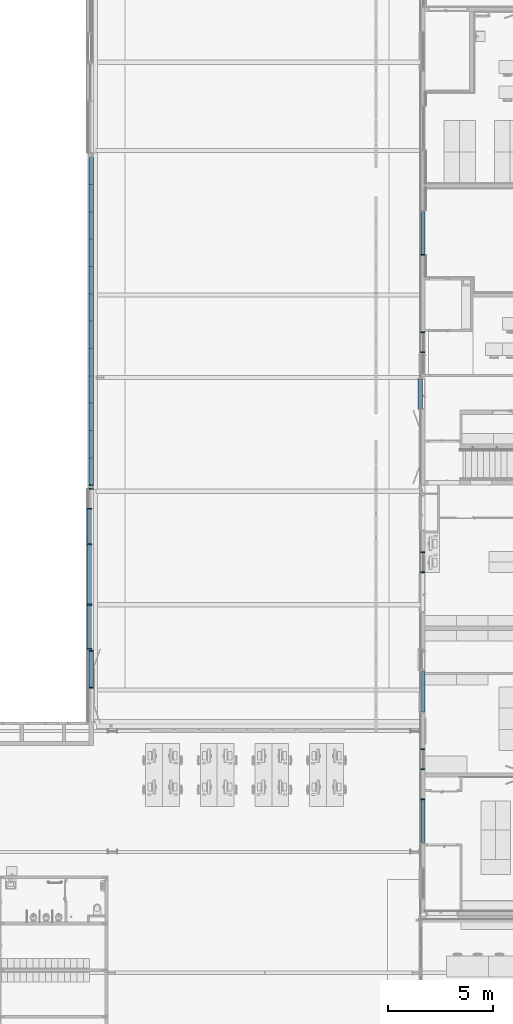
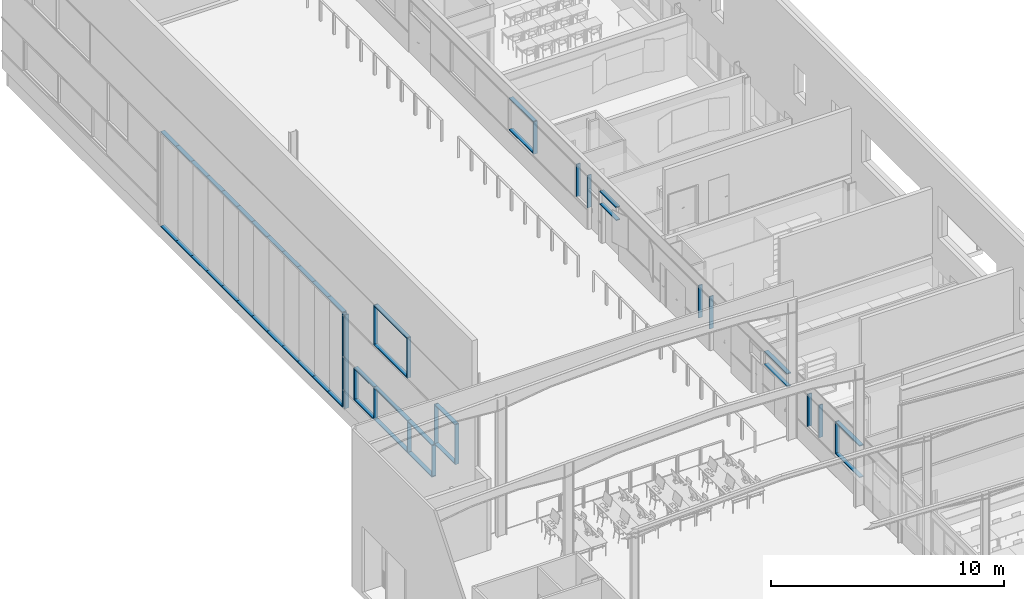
# One storey, part 13 of 137: 60 members, 11 elements without a shape of their own.
"""IFC2X3 building model written with IfcOpenShell, lengths in centimetres."""

from ifc_helpers import new_model, entity, si_unit, converted_unit, derived_unit, direction, frame, frame_2d, origin, origin_2d_with_axis, place, context, subcontext, project, spatial, rectangle, extrude, material, type_object, element, aggregate, save


model = new_model("IFC2X3")

# Units and contexts
model_context = context("Model", 3, precision=0.001, world=origin(), true_north=direction((6.12303176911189e-17, 1.0)))
body_context = subcontext(model_context, "Body", "Model", "MODEL_VIEW")
ifc_project = project(units=[si_unit("LENGTHUNIT", "METRE", prefix="CENTI"), si_unit("AREAUNIT", "SQUARE_METRE"), si_unit("VOLUMEUNIT", "CUBIC_METRE"), converted_unit("PLANEANGLEUNIT", "DEGREE", entity("IfcRatioMeasure", 0.0174532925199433), si_unit("PLANEANGLEUNIT", "RADIAN"), dimensions=[0, 0, 0, 0, 0, 0, 0]), si_unit("MASSUNIT", "GRAM", prefix="KILO"), si_unit("TIMEUNIT", "SECOND"), si_unit("FREQUENCYUNIT", "HERTZ"), si_unit("THERMODYNAMICTEMPERATUREUNIT", "DEGREE_CELSIUS"), derived_unit("THERMALTRANSMITTANCEUNIT", [(si_unit("MASSUNIT", "GRAM", prefix="KILO"), 1), (si_unit("THERMODYNAMICTEMPERATUREUNIT", "KELVIN"), -1), (si_unit("TIMEUNIT", "SECOND"), -3)]), derived_unit("VOLUMETRICFLOWRATEUNIT", [(si_unit("LENGTHUNIT", "METRE"), 3), (si_unit("TIMEUNIT", "SECOND"), -1)]), si_unit("ELECTRICCURRENTUNIT", "AMPERE"), si_unit("ELECTRICVOLTAGEUNIT", "VOLT"), si_unit("POWERUNIT", "WATT"), si_unit("FORCEUNIT", "NEWTON", prefix="KILO"), si_unit("ILLUMINANCEUNIT", "LUX"), si_unit("LUMINOUSFLUXUNIT", "LUMEN"), si_unit("LUMINOUSINTENSITYUNIT", "CANDELA"), derived_unit("USERDEFINED", [(si_unit("MASSUNIT", "GRAM", prefix="KILO"), -1), (si_unit("LENGTHUNIT", "METRE"), -2), (si_unit("TIMEUNIT", "SECOND"), 3), (si_unit("LUMINOUSFLUXUNIT", "LUMEN"), 1)]), derived_unit("LINEARVELOCITYUNIT", [(si_unit("LENGTHUNIT", "METRE"), 1), (si_unit("TIMEUNIT", "SECOND"), -1)]), si_unit("PRESSUREUNIT", "PASCAL"), derived_unit("USERDEFINED", [(si_unit("LENGTHUNIT", "METRE"), -2), (si_unit("MASSUNIT", "GRAM", prefix="KILO"), 1), (si_unit("TIMEUNIT", "SECOND"), -2)])], contexts=[model_context])

# Site, building, storey
site_placement = place(None, frame((8.62739174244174, -249.285249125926, 0.0)))
site = spatial("IfcSite", under=ifc_project, at=site_placement, Name="Default", CompositionType="ELEMENT")
building_placement = place(site_placement, origin())
building = spatial("IfcBuilding", under=site, at=building_placement, CompositionType="ELEMENT")
storey_placement = place(building_placement, origin())
storey = spatial("IfcBuildingStorey", under=building, at=storey_placement, Name="RDC", CompositionType="ELEMENT", Elevation=-8.82465566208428e-11)

# Curtain wall, members
curtain_wall_type = type_object("IfcCurtainWallType", Name="Mur-rideau:Simple panneau", PredefinedType="NOTDEFINED")
curtain_wall_1_placement = place(storey_placement, origin())
curtain_wall_1 = element("IfcCurtainWall", 1, at=curtain_wall_1_placement, inside=storey, type_object=curtain_wall_type, Name="Mur-rideau:Simple panneau", ObjectType="Mur-rideau:Simple panneau")
ifc_material = material(Name="Plastique, blanc opaque")
member_1_placement = place(curtain_wall_1_placement, origin())
member_1 = element("IfcMember", 2, at=member_1_placement, material=ifc_material, Name="Mur-rideau:Simple panneau", ObjectType="Mur-rideau:Simple panneau", context=body_context, shape_type="SweptSolid", body=[
    extrude(rectangle(XDim=20.0000000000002, YDim=4.99999999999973, at=frame_2d((0.0, 4.33209024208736e-13), x_axis=(1.0, 0.0))), frame((1466.9048277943, 4663.77522290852, 5.0), z_axis=(0.0, 0.0, 1.0), x_axis=(-1.0, 0.0, 0.0)), (0.0, 0.0, 1.0), 490.0),
])
member_2_placement = place(curtain_wall_1_placement, origin())
member_2 = element("IfcMember", 3, at=member_2_placement, material=ifc_material, Name="Mur-rideau:Simple panneau", ObjectType="Mur-rideau:Simple panneau", context=body_context, shape_type="SweptSolid", body=[
    extrude(rectangle(XDim=20.0000000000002, YDim=5.0000000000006, at=origin_2d_with_axis()), frame((1466.9048277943, 4681.27522290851, 5.0), z_axis=(0.0, 0.0, 1.0), x_axis=(-1.0, 0.0, 0.0)), (0.0, 0.0, 1.0), 490.0),
])
member_3_placement = place(curtain_wall_1_placement, origin())
member_3 = element("IfcMember", 4, at=member_3_placement, material=ifc_material, Name="Mur-rideau:Simple panneau", ObjectType="Mur-rideau:Simple panneau", context=body_context, shape_type="SweptSolid", body=[
    extrude(rectangle(XDim=5.0, YDim=19.9999999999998, at=origin_2d_with_axis()), frame((1466.9048277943, 6111.27522290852, 2.50000000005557), z_axis=(0.0, -1.0, 0.0), x_axis=(0.0, 0.0, -1.0)), (0.0, 0.0, 1.0), 130.0),
])
member_4_placement = place(curtain_wall_1_placement, origin())
member_4 = element("IfcMember", 5, at=member_4_placement, material=ifc_material, Name="Mur-rideau:Simple panneau", ObjectType="Mur-rideau:Simple panneau", context=body_context, shape_type="SweptSolid", body=[
    extrude(rectangle(XDim=5.0, YDim=20.0000000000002, at=origin_2d_with_axis()), frame((1466.9048277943, 5981.27522290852, 2.50000000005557), z_axis=(0.0, -1.0, 0.0), x_axis=(0.0, 0.0, -1.0)), (0.0, 0.0, 1.0), 130.0),
])
member_5_placement = place(curtain_wall_1_placement, origin())
member_5 = element("IfcMember", 6, at=member_5_placement, material=ifc_material, Name="Mur-rideau:Simple panneau", ObjectType="Mur-rideau:Simple panneau", context=body_context, shape_type="SweptSolid", body=[
    extrude(rectangle(XDim=5.0, YDim=19.9999999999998, at=origin_2d_with_axis()), frame((1466.9048277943, 5851.27522290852, 2.50000000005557), z_axis=(0.0, -1.0, 0.0), x_axis=(0.0, 0.0, -1.0)), (0.0, 0.0, 1.0), 130.0),
])
member_6_placement = place(curtain_wall_1_placement, origin())
member_6 = element("IfcMember", 7, at=member_6_placement, material=ifc_material, Name="Mur-rideau:Simple panneau", ObjectType="Mur-rideau:Simple panneau", context=body_context, shape_type="SweptSolid", body=[
    extrude(rectangle(XDim=5.0, YDim=20.0000000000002, at=origin_2d_with_axis()), frame((1466.9048277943, 5721.27522290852, 2.50000000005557), z_axis=(0.0, -1.0, 0.0), x_axis=(0.0, 0.0, -1.0)), (0.0, 0.0, 1.0), 130.0),
])
member_7_placement = place(curtain_wall_1_placement, origin())
member_7 = element("IfcMember", 8, at=member_7_placement, material=ifc_material, Name="Mur-rideau:Simple panneau", ObjectType="Mur-rideau:Simple panneau", context=body_context, shape_type="SweptSolid", body=[
    extrude(rectangle(XDim=5.0, YDim=19.9999999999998, at=frame_2d((0.0, -2.16715534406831e-13), x_axis=(1.0, 0.0))), frame((1466.9048277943, 5591.27522290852, 2.50000000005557), z_axis=(0.0, -1.0, 0.0), x_axis=(0.0, 0.0, -1.0)), (0.0, 0.0, 1.0), 130.0),
])
member_8_placement = place(curtain_wall_1_placement, origin())
member_8 = element("IfcMember", 9, at=member_8_placement, material=ifc_material, Name="Mur-rideau:Simple panneau", ObjectType="Mur-rideau:Simple panneau", context=body_context, shape_type="SweptSolid", body=[
    extrude(rectangle(XDim=5.0, YDim=20.0000000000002, at=frame_2d((0.0, 2.16715534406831e-13), x_axis=(1.0, 0.0))), frame((1466.9048277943, 5461.27522290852, 2.50000000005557), z_axis=(0.0, -1.0, 0.0), x_axis=(0.0, 0.0, -1.0)), (0.0, 0.0, 1.0), 130.0),
])
member_9_placement = place(curtain_wall_1_placement, origin())
member_9 = element("IfcMember", 10, at=member_9_placement, material=ifc_material, Name="Mur-rideau:Simple panneau", ObjectType="Mur-rideau:Simple panneau", context=body_context, shape_type="SweptSolid", body=[
    extrude(rectangle(XDim=5.0, YDim=19.9999999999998, at=origin_2d_with_axis()), frame((1466.9048277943, 5331.27522290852, 2.50000000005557), z_axis=(0.0, -1.0, 0.0), x_axis=(0.0, 0.0, -1.0)), (0.0, 0.0, 1.0), 130.0),
])
member_10_placement = place(curtain_wall_1_placement, origin())
member_10 = element("IfcMember", 11, at=member_10_placement, material=ifc_material, Name="Mur-rideau:Simple panneau", ObjectType="Mur-rideau:Simple panneau", context=body_context, shape_type="SweptSolid", body=[
    extrude(rectangle(XDim=5.0, YDim=20.0000000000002, at=origin_2d_with_axis()), frame((1466.9048277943, 5201.27522290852, 2.50000000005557), z_axis=(0.0, -1.0, 0.0), x_axis=(0.0, 0.0, -1.0)), (0.0, 0.0, 1.0), 130.0),
])
member_11_placement = place(curtain_wall_1_placement, origin())
member_11 = element("IfcMember", 12, at=member_11_placement, material=ifc_material, Name="Mur-rideau:Simple panneau", ObjectType="Mur-rideau:Simple panneau", context=body_context, shape_type="SweptSolid", body=[
    extrude(rectangle(XDim=5.0, YDim=19.9999999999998, at=origin_2d_with_axis()), frame((1466.9048277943, 5071.27522290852, 2.50000000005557), z_axis=(0.0, -1.0, 0.0), x_axis=(0.0, 0.0, -1.0)), (0.0, 0.0, 1.0), 130.0),
])
member_12_placement = place(curtain_wall_1_placement, origin())
member_12 = element("IfcMember", 13, at=member_12_placement, material=ifc_material, Name="Mur-rideau:Simple panneau", ObjectType="Mur-rideau:Simple panneau", context=body_context, shape_type="SweptSolid", body=[
    extrude(rectangle(XDim=5.0, YDim=20.0000000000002, at=origin_2d_with_axis()), frame((1466.9048277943, 4941.27522290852, 2.50000000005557), z_axis=(0.0, -1.0, 0.0), x_axis=(0.0, 0.0, -1.0)), (0.0, 0.0, 1.0), 130.0),
])
member_13_placement = place(curtain_wall_1_placement, origin())
member_13 = element("IfcMember", 14, at=member_13_placement, material=ifc_material, Name="Mur-rideau:Simple panneau", ObjectType="Mur-rideau:Simple panneau", context=body_context, shape_type="SweptSolid", body=[
    extrude(rectangle(XDim=5.0, YDim=19.9999999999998, at=origin_2d_with_axis()), frame((1466.9048277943, 4811.27522290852, 2.50000000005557), z_axis=(0.0, -1.0, 0.0), x_axis=(0.0, 0.0, -1.0)), (0.0, 0.0, 1.0), 130.0),
])
member_14_placement = place(curtain_wall_1_placement, origin())
member_14 = element("IfcMember", 15, at=member_14_placement, material=ifc_material, Name="Mur-rideau:Simple panneau", ObjectType="Mur-rideau:Simple panneau", context=body_context, shape_type="SweptSolid", body=[
    extrude(rectangle(XDim=5.0, YDim=20.0000000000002, at=origin_2d_with_axis()), frame((1466.9048277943, 6241.27522290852, 2.50000000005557), z_axis=(0.0, -1.0, 0.0), x_axis=(0.0, 0.0, -1.0)), (0.0, 0.0, 1.0), 130.0),
])
member_15_placement = place(curtain_wall_1_placement, origin())
member_15 = element("IfcMember", 16, at=member_15_placement, material=ifc_material, Name="Mur-rideau:Simple panneau", ObjectType="Mur-rideau:Simple panneau", context=body_context, shape_type="SweptSolid", body=[
    extrude(rectangle(XDim=4.99999999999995, YDim=19.9999999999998, at=origin_2d_with_axis()), frame((1466.9048277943, 6111.27522290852, 497.500000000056), z_axis=(0.0, 1.0, 0.0), x_axis=(0.0, 0.0, -1.0)), (0.0, 0.0, 1.0), 130.0),
])
member_16_placement = place(curtain_wall_1_placement, origin())
member_16 = element("IfcMember", 17, at=member_16_placement, material=ifc_material, Name="Mur-rideau:Simple panneau", ObjectType="Mur-rideau:Simple panneau", context=body_context, shape_type="SweptSolid", body=[
    extrude(rectangle(XDim=4.99999999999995, YDim=20.0000000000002, at=origin_2d_with_axis()), frame((1466.9048277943, 5981.27522290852, 497.500000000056), z_axis=(0.0, 1.0, 0.0), x_axis=(0.0, 0.0, -1.0)), (0.0, 0.0, 1.0), 130.0),
])
member_17_placement = place(curtain_wall_1_placement, origin())
member_17 = element("IfcMember", 18, at=member_17_placement, material=ifc_material, Name="Mur-rideau:Simple panneau", ObjectType="Mur-rideau:Simple panneau", context=body_context, shape_type="SweptSolid", body=[
    extrude(rectangle(XDim=4.99999999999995, YDim=19.9999999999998, at=origin_2d_with_axis()), frame((1466.9048277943, 5851.27522290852, 497.500000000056), z_axis=(0.0, 1.0, 0.0), x_axis=(0.0, 0.0, -1.0)), (0.0, 0.0, 1.0), 130.0),
])
member_18_placement = place(curtain_wall_1_placement, origin())
member_18 = element("IfcMember", 19, at=member_18_placement, material=ifc_material, Name="Mur-rideau:Simple panneau", ObjectType="Mur-rideau:Simple panneau", context=body_context, shape_type="SweptSolid", body=[
    extrude(rectangle(XDim=4.99999999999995, YDim=20.0000000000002, at=frame_2d((0.0, 2.16715534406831e-13), x_axis=(1.0, 0.0))), frame((1466.9048277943, 5721.27522290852, 497.500000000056), z_axis=(0.0, 1.0, 0.0), x_axis=(0.0, 0.0, -1.0)), (0.0, 0.0, 1.0), 130.0),
])
member_19_placement = place(curtain_wall_1_placement, origin())
member_19 = element("IfcMember", 20, at=member_19_placement, material=ifc_material, Name="Mur-rideau:Simple panneau", ObjectType="Mur-rideau:Simple panneau", context=body_context, shape_type="SweptSolid", body=[
    extrude(rectangle(XDim=4.99999999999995, YDim=19.9999999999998, at=frame_2d((0.0, -2.16715534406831e-13), x_axis=(1.0, 0.0))), frame((1466.9048277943, 5591.27522290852, 497.500000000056), z_axis=(0.0, 1.0, 0.0), x_axis=(0.0, 0.0, -1.0)), (0.0, 0.0, 1.0), 130.0),
])
member_20_placement = place(curtain_wall_1_placement, origin())
member_20 = element("IfcMember", 21, at=member_20_placement, material=ifc_material, Name="Mur-rideau:Simple panneau", ObjectType="Mur-rideau:Simple panneau", context=body_context, shape_type="SweptSolid", body=[
    extrude(rectangle(XDim=4.99999999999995, YDim=20.0000000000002, at=origin_2d_with_axis()), frame((1466.9048277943, 5461.27522290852, 497.500000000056), z_axis=(0.0, 1.0, 0.0), x_axis=(0.0, 0.0, -1.0)), (0.0, 0.0, 1.0), 130.0),
])
member_21_placement = place(curtain_wall_1_placement, origin())
member_21 = element("IfcMember", 22, at=member_21_placement, material=ifc_material, Name="Mur-rideau:Simple panneau", ObjectType="Mur-rideau:Simple panneau", context=body_context, shape_type="SweptSolid", body=[
    extrude(rectangle(XDim=4.99999999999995, YDim=19.9999999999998, at=origin_2d_with_axis()), frame((1466.9048277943, 5331.27522290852, 497.500000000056), z_axis=(0.0, 1.0, 0.0), x_axis=(0.0, 0.0, -1.0)), (0.0, 0.0, 1.0), 130.0),
])
member_22_placement = place(curtain_wall_1_placement, origin())
member_22 = element("IfcMember", 23, at=member_22_placement, material=ifc_material, Name="Mur-rideau:Simple panneau", ObjectType="Mur-rideau:Simple panneau", context=body_context, shape_type="SweptSolid", body=[
    extrude(rectangle(XDim=4.99999999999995, YDim=20.0000000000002, at=origin_2d_with_axis()), frame((1466.9048277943, 5201.27522290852, 497.500000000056), z_axis=(0.0, 1.0, 0.0), x_axis=(0.0, 0.0, -1.0)), (0.0, 0.0, 1.0), 130.0),
])
member_23_placement = place(curtain_wall_1_placement, origin())
member_23 = element("IfcMember", 24, at=member_23_placement, material=ifc_material, Name="Mur-rideau:Simple panneau", ObjectType="Mur-rideau:Simple panneau", context=body_context, shape_type="SweptSolid", body=[
    extrude(rectangle(XDim=4.99999999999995, YDim=19.9999999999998, at=origin_2d_with_axis()), frame((1466.9048277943, 5071.27522290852, 497.500000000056), z_axis=(0.0, 1.0, 0.0), x_axis=(0.0, 0.0, -1.0)), (0.0, 0.0, 1.0), 130.0),
])
member_24_placement = place(curtain_wall_1_placement, origin())
member_24 = element("IfcMember", 25, at=member_24_placement, material=ifc_material, Name="Mur-rideau:Simple panneau", ObjectType="Mur-rideau:Simple panneau", context=body_context, shape_type="SweptSolid", body=[
    extrude(rectangle(XDim=4.99999999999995, YDim=20.0000000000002, at=origin_2d_with_axis()), frame((1466.9048277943, 4941.27522290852, 497.500000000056), z_axis=(0.0, 1.0, 0.0), x_axis=(0.0, 0.0, -1.0)), (0.0, 0.0, 1.0), 130.0),
])
member_25_placement = place(curtain_wall_1_placement, origin())
member_25 = element("IfcMember", 26, at=member_25_placement, material=ifc_material, Name="Mur-rideau:Simple panneau", ObjectType="Mur-rideau:Simple panneau", context=body_context, shape_type="SweptSolid", body=[
    extrude(rectangle(XDim=4.99999999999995, YDim=19.9999999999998, at=origin_2d_with_axis()), frame((1466.9048277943, 4811.27522290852, 497.500000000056), z_axis=(0.0, 1.0, 0.0), x_axis=(0.0, 0.0, -1.0)), (0.0, 0.0, 1.0), 130.0),
])
member_26_placement = place(curtain_wall_1_placement, origin())
member_26 = element("IfcMember", 27, at=member_26_placement, material=ifc_material, Name="Mur-rideau:Simple panneau", ObjectType="Mur-rideau:Simple panneau", context=body_context, shape_type="SweptSolid", body=[
    extrude(rectangle(XDim=4.99999999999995, YDim=20.0000000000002, at=frame_2d((0.0, 2.16715534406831e-13), x_axis=(1.0, 0.0))), frame((1466.9048277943, 4681.27522290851, 497.500000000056), z_axis=(0.0, 1.0, 0.0), x_axis=(0.0, 0.0, -1.0)), (0.0, 0.0, 1.0), 130.0),
])
aggregate(curtain_wall_1, [member_1, member_2, member_3, member_4, member_5, member_6, member_7, member_8, member_9, member_10, member_11, member_12, member_13, member_14, member_15, member_16, member_17, member_18, member_19, member_20, member_21, member_22, member_23, member_24, member_25, member_26])

curtain_wall_2_placement = place(storey_placement, origin())
curtain_wall_2 = element("IfcCurtainWall", 28, at=curtain_wall_2_placement, inside=storey, type_object=curtain_wall_type, Name="Mur-rideau:Simple panneau", ObjectType="Mur-rideau:Simple panneau")
member_27_placement = place(curtain_wall_2_placement, origin())
member_27 = element("IfcMember", 29, at=member_27_placement, material=ifc_material, Name="Mur-rideau:Simple panneau", ObjectType="Mur-rideau:Simple panneau", context=body_context, shape_type="SweptSolid", body=[
    extrude(rectangle(XDim=19.9999999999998, YDim=4.99999999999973, at=frame_2d((0.0, -4.33209024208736e-13), x_axis=(1.0, 0.0))), frame((1458.9048277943, 4399.9802080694, 710.0), z_axis=(0.0, 0.0, -1.0), x_axis=(-1.0, 0.0, 0.0)), (0.0, 0.0, 1.0), 210.0),
])
member_28_placement = place(curtain_wall_2_placement, origin())
member_28 = element("IfcMember", 30, at=member_28_placement, material=ifc_material, Name="Mur-rideau:Simple panneau", ObjectType="Mur-rideau:Simple panneau", context=body_context, shape_type="SweptSolid", body=[
    extrude(rectangle(XDim=5.00000000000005, YDim=19.9999999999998, at=frame_2d((-5.41788836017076e-14, -2.16715534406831e-13), x_axis=(1.0, 0.0))), frame((1458.9048277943, 4117.4802080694, 707.500000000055), z_axis=(0.0, 1.0, 0.0), x_axis=(0.0, 0.0, -1.0)), (0.0, 0.0, 1.0), 280.000000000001),
])
member_29_placement = place(curtain_wall_2_placement, origin())
member_29 = element("IfcMember", 31, at=member_29_placement, material=ifc_material, Name="Mur-rideau:Simple panneau", ObjectType="Mur-rideau:Simple panneau", context=body_context, shape_type="SweptSolid", body=[
    extrude(rectangle(XDim=19.9999999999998, YDim=4.99999999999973, at=frame_2d((0.0, -4.33209024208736e-13), x_axis=(1.0, 0.0))), frame((1458.9048277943, 4114.98020806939, 500.0), z_axis=(0.0, 0.0, 1.0), x_axis=(-1.0, 0.0, 0.0)), (0.0, 0.0, 1.0), 210.0),
])
member_30_placement = place(curtain_wall_2_placement, origin())
member_30 = element("IfcMember", 32, at=member_30_placement, material=ifc_material, Name="Mur-rideau:Simple panneau", ObjectType="Mur-rideau:Simple panneau", context=body_context, shape_type="SweptSolid", body=[
    extrude(rectangle(XDim=4.99999999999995, YDim=19.9999999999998, at=origin_2d_with_axis()), frame((1458.9048277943, 4397.4802080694, 502.500000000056), z_axis=(0.0, -1.0, 0.0), x_axis=(0.0, 0.0, -1.0)), (0.0, 0.0, 1.0), 280.0),
])
aggregate(curtain_wall_2, [member_27, member_28, member_29, member_30])

curtain_wall_3_placement = place(storey_placement, origin())
curtain_wall_3 = element("IfcCurtainWall", 33, at=curtain_wall_3_placement, inside=storey, type_object=curtain_wall_type, Name="Mur-rideau:Simple panneau", ObjectType="Mur-rideau:Simple panneau")
member_31_placement = place(curtain_wall_3_placement, origin())
member_31 = element("IfcMember", 34, at=member_31_placement, material=ifc_material, Name="Mur-rideau:Simple panneau", ObjectType="Mur-rideau:Simple panneau", context=body_context, shape_type="SweptSolid", body=[
    extrude(rectangle(XDim=19.9999999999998, YDim=4.99999999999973, at=frame_2d((0.0, 4.33209024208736e-13), x_axis=(1.0, 0.0))), frame((1458.90482779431, 4568.48023768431, 275.0), z_axis=(0.0, 0.0, -1.0), x_axis=(-1.0, 0.0, 0.0)), (0.0, 0.0, 1.0), 160.0),
])
member_32_placement = place(curtain_wall_3_placement, origin())
member_32 = element("IfcMember", 35, at=member_32_placement, material=ifc_material, Name="Mur-rideau:Simple panneau", ObjectType="Mur-rideau:Simple panneau", context=body_context, shape_type="SweptSolid", body=[
    extrude(rectangle(XDim=5.0, YDim=20.0, at=frame_2d((2.70894418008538e-14, -1.08357767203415e-13), x_axis=(1.0, 0.0))), frame((1458.90482779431, 3900.9802080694, 277.50000000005), z_axis=(0.0, 1.0, 0.0), x_axis=(0.0, 0.0, -1.0)), (0.0, 0.0, 1.0), 210.000000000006),
])
member_33_placement = place(curtain_wall_3_placement, origin())
member_33 = element("IfcMember", 36, at=member_33_placement, material=ifc_material, Name="Mur-rideau:Simple panneau", ObjectType="Mur-rideau:Simple panneau", context=body_context, shape_type="SweptSolid", body=[
    extrude(rectangle(XDim=20.0, YDim=5.00000000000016, at=frame_2d((1.08357767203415e-13, -2.16715534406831e-13), x_axis=(1.0, 0.0))), frame((1458.90482779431, 3903.4802080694, 115.0), z_axis=(0.0, 0.0, 1.0), x_axis=(-1.0, 0.0, 0.0)), (0.0, 0.0, 1.0), 160.0),
])
member_34_placement = place(curtain_wall_3_placement, origin())
member_34 = element("IfcMember", 37, at=member_34_placement, material=ifc_material, Name="Mur-rideau:Simple panneau", ObjectType="Mur-rideau:Simple panneau", context=body_context, shape_type="SweptSolid", body=[
    extrude(rectangle(XDim=5.0, YDim=19.9999999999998, at=frame_2d((0.0, -2.16715534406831e-13), x_axis=(1.0, 0.0))), frame((1458.90482779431, 4570.98023768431, 112.500000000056), z_axis=(0.0, -1.0, 0.0), x_axis=(0.0, 0.0, -1.0)), (0.0, 0.0, 1.0), 170.000029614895),
])
member_35_placement = place(curtain_wall_3_placement, origin())
member_35 = element("IfcMember", 38, at=member_35_placement, material=ifc_material, Name="Mur-rideau:Simple panneau", ObjectType="Mur-rideau:Simple panneau", context=body_context, shape_type="SweptSolid", body=[
    extrude(rectangle(XDim=5.0, YDim=20.0, at=frame_2d((2.70894418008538e-14, -1.08357767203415e-13), x_axis=(1.0, 0.0))), frame((1458.90482779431, 4400.98020806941, 277.50000000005), z_axis=(0.0, 1.0, 0.0), x_axis=(0.0, 0.0, -1.0)), (0.0, 0.0, 1.0), 170.000029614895),
])
member_36_placement = place(curtain_wall_3_placement, origin())
member_36 = element("IfcMember", 39, at=member_36_placement, material=ifc_material, Name="Mur-rideau:Simple panneau", ObjectType="Mur-rideau:Simple panneau", context=body_context, shape_type="SweptSolid", body=[
    extrude(rectangle(XDim=5.0, YDim=20.0, at=frame_2d((0.0, -1.08357767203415e-13), x_axis=(1.0, 0.0))), frame((1458.90482779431, 4400.98020806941, 112.500000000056), z_axis=(0.0, -1.0, 0.0), x_axis=(0.0, 0.0, -1.0)), (0.0, 0.0, 1.0), 290.0),
])
member_37_placement = place(curtain_wall_3_placement, origin())
member_37 = element("IfcMember", 40, at=member_37_placement, material=ifc_material, Name="Mur-rideau:Simple panneau", ObjectType="Mur-rideau:Simple panneau", context=body_context, shape_type="SweptSolid", body=[
    extrude(rectangle(XDim=5.0, YDim=19.9999999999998, at=frame_2d((2.70894418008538e-14, 0.0), x_axis=(1.0, 0.0))), frame((1458.90482779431, 4110.98020806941, 277.50000000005), z_axis=(0.0, 1.0, 0.0), x_axis=(0.0, 0.0, -1.0)), (0.0, 0.0, 1.0), 290.0),
])
member_38_placement = place(curtain_wall_3_placement, origin())
member_38 = element("IfcMember", 41, at=member_38_placement, material=ifc_material, Name="Mur-rideau:Simple panneau", ObjectType="Mur-rideau:Simple panneau", context=body_context, shape_type="SweptSolid", body=[
    extrude(rectangle(XDim=5.0, YDim=19.9999999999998, at=origin_2d_with_axis()), frame((1458.90482779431, 4110.98020806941, 112.500000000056), z_axis=(0.0, -1.0, 0.0), x_axis=(0.0, 0.0, -1.0)), (0.0, 0.0, 1.0), 210.000000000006),
])
member_39_placement = place(curtain_wall_3_placement, origin())
member_39 = element("IfcMember", 42, at=member_39_placement, material=ifc_material, Name="Mur-rideau:Simple panneau", ObjectType="Mur-rideau:Simple panneau", context=body_context, shape_type="SweptSolid", body=[
    extrude(rectangle(XDim=20.0000000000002, YDim=5.0000000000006, at=frame_2d((-2.16715534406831e-13, 0.0), x_axis=(1.0, 0.0))), frame((1458.90482779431, 4400.98020806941, 115.0), z_axis=(0.0, 0.0, 1.0), x_axis=(-1.0, 0.0, 0.0)), (0.0, 0.0, 1.0), 160.0),
])
member_40_placement = place(curtain_wall_3_placement, origin())
member_40 = element("IfcMember", 43, at=member_40_placement, material=ifc_material, Name="Mur-rideau:Simple panneau", ObjectType="Mur-rideau:Simple panneau", context=body_context, shape_type="SweptSolid", body=[
    extrude(rectangle(XDim=19.9999999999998, YDim=5.0000000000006, at=origin_2d_with_axis()), frame((1458.90482779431, 4110.98020806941, 115.0), z_axis=(0.0, 0.0, 1.0), x_axis=(-1.0, 0.0, 0.0)), (0.0, 0.0, 1.0), 160.0),
])
aggregate(curtain_wall_3, [member_31, member_32, member_33, member_34, member_35, member_36, member_37, member_38, member_39, member_40])

curtain_wall_4_placement = place(storey_placement, origin())
curtain_wall_4 = element("IfcCurtainWall", 44, at=curtain_wall_4_placement, inside=storey, type_object=curtain_wall_type, Name="Mur-rideau:Simple panneau", ObjectType="Mur-rideau:Simple panneau")
member_41_placement = place(curtain_wall_4_placement, origin())
member_41 = element("IfcMember", 45, at=member_41_placement, material=ifc_material, Name="Mur-rideau:Simple panneau", ObjectType="Mur-rideau:Simple panneau", context=body_context, shape_type="SweptSolid", body=[
    extrude(rectangle(XDim=19.9999999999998, YDim=5.00000000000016, at=frame_2d((0.0, 2.16715534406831e-13), x_axis=(1.0, 0.0))), frame((3043.90482779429, 3187.4802074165, 110.0), z_axis=(0.0, 0.0, 1.0), x_axis=(-1.0, 0.0, 0.0)), (0.0, 0.0, 1.0), 170.0),
])
member_42_placement = place(curtain_wall_4_placement, origin())
member_42 = element("IfcMember", 46, at=member_42_placement, material=ifc_material, Name="Mur-rideau:Simple panneau", ObjectType="Mur-rideau:Simple panneau", context=body_context, shape_type="SweptSolid", body=[
    extrude(rectangle(XDim=5.0, YDim=19.9999999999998, at=frame_2d((2.70894418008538e-14, 0.0), x_axis=(1.0, 0.0))), frame((3043.90482779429, 3184.9802074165, 277.500000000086), z_axis=(0.0, -1.0, 0.0), x_axis=(0.0, 0.0, -1.0)), (0.0, 0.0, 1.0), 205.0),
])
member_43_placement = place(curtain_wall_4_placement, origin())
member_43 = element("IfcMember", 47, at=member_43_placement, material=ifc_material, Name="Mur-rideau:Simple panneau", ObjectType="Mur-rideau:Simple panneau", context=body_context, shape_type="SweptSolid", body=[
    extrude(rectangle(XDim=5.0, YDim=19.9999999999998, at=frame_2d((0.0, 4.33431068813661e-13), x_axis=(1.0, 0.0))), frame((3043.90482779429, 2979.9802074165, 112.499999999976), z_axis=(0.0, 1.0, 0.0), x_axis=(0.0, 0.0, -1.0)), (0.0, 0.0, 1.0), 205.0),
])
aggregate(curtain_wall_4, [member_41, member_42, member_43])

curtain_wall_5_placement = place(storey_placement, origin())
curtain_wall_5 = element("IfcCurtainWall", 48, at=curtain_wall_5_placement, inside=storey, type_object=curtain_wall_type, Name="Mur-rideau:Simple panneau", ObjectType="Mur-rideau:Simple panneau")
member_44_placement = place(curtain_wall_5_placement, origin())
member_44 = element("IfcMember", 49, at=member_44_placement, material=ifc_material, Name="Mur-rideau:Simple panneau", ObjectType="Mur-rideau:Simple panneau", context=body_context, shape_type="SweptSolid", body=[
    extrude(rectangle(XDim=19.9999999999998, YDim=5.00000000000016, at=frame_2d((0.0, 2.16715534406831e-13), x_axis=(1.0, 0.0))), frame((3043.90482779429, 3329.68519336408, 280.0), z_axis=(0.0, 0.0, -1.0), x_axis=(-1.0, 0.0, 0.0)), (0.0, 0.0, 1.0), 170.0),
])
member_45_placement = place(curtain_wall_5_placement, origin())
member_45 = element("IfcMember", 50, at=member_45_placement, material=ifc_material, Name="Mur-rideau:Simple panneau", ObjectType="Mur-rideau:Simple panneau", context=body_context, shape_type="SweptSolid", body=[
    extrude(rectangle(XDim=19.9999999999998, YDim=5.00000000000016, at=frame_2d((0.0, -2.16715534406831e-13), x_axis=(1.0, 0.0))), frame((3043.90482779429, 3424.68519336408, 110.0), z_axis=(0.0, 0.0, 1.0), x_axis=(-1.0, 0.0, 0.0)), (0.0, 0.0, 1.0), 170.0),
])
aggregate(curtain_wall_5, [member_44, member_45])

curtain_wall_6_placement = place(storey_placement, origin())
curtain_wall_6 = element("IfcCurtainWall", 51, at=curtain_wall_6_placement, inside=storey, type_object=curtain_wall_type, Name="Mur-rideau:Simple panneau", ObjectType="Mur-rideau:Simple panneau")
member_46_placement = place(curtain_wall_6_placement, origin())
member_46 = element("IfcMember", 52, at=member_46_placement, material=ifc_material, Name="Mur-rideau:Simple panneau", ObjectType="Mur-rideau:Simple panneau", context=body_context, shape_type="SweptSolid", body=[
    extrude(rectangle(XDim=19.9999999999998, YDim=4.99999999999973, at=frame_2d((0.0, -4.33209024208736e-13), x_axis=(1.0, 0.0))), frame((3043.9048277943, 5313.73020813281, 280.0), z_axis=(0.0, 0.0, -1.0), x_axis=(-1.0, 0.0, 0.0)), (0.0, 0.0, 1.0), 170.0),
])
member_47_placement = place(curtain_wall_6_placement, origin())
member_47 = element("IfcMember", 53, at=member_47_placement, material=ifc_material, Name="Mur-rideau:Simple panneau", ObjectType="Mur-rideau:Simple panneau", context=body_context, shape_type="SweptSolid", body=[
    extrude(rectangle(XDim=19.9999999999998, YDim=4.99999999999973, at=frame_2d((0.0, -4.33209024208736e-13), x_axis=(1.0, 0.0))), frame((3043.9048277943, 5408.73020813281, 110.0), z_axis=(0.0, 0.0, 1.0), x_axis=(-1.0, 0.0, 0.0)), (0.0, 0.0, 1.0), 170.0),
])
aggregate(curtain_wall_6, [member_46, member_47])

curtain_wall_7_placement = place(storey_placement, origin())
curtain_wall_7 = element("IfcCurtainWall", 54, at=curtain_wall_7_placement, inside=storey, type_object=curtain_wall_type, Name="Mur-rideau:Simple panneau", ObjectType="Mur-rideau:Simple panneau")
member_48_placement = place(curtain_wall_7_placement, origin())
member_48 = element("IfcMember", 55, at=member_48_placement, material=ifc_material, Name="Mur-rideau:Simple panneau", ObjectType="Mur-rideau:Simple panneau", context=body_context, shape_type="SweptSolid", body=[
    extrude(rectangle(XDim=5.0, YDim=19.9999999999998, at=frame_2d((2.70894418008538e-14, 0.0), x_axis=(1.0, 0.0))), frame((3031.9048277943, 5045.23020813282, 277.500000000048), z_axis=(0.0, 1.0, 0.0), x_axis=(0.0, 0.0, -1.0)), (0.0, 0.0, 1.0), 140.999999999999),
])
member_49_placement = place(curtain_wall_7_placement, origin())
member_49 = element("IfcMember", 56, at=member_49_placement, material=ifc_material, Name="Mur-rideau:Simple panneau", ObjectType="Mur-rideau:Simple panneau", context=body_context, shape_type="SweptSolid", body=[
    extrude(rectangle(XDim=5.0, YDim=19.9999999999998, at=origin_2d_with_axis()), frame((3031.9048277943, 5186.23020813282, 210.500000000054), z_axis=(0.0, -1.0, 0.0), x_axis=(0.0, 0.0, -1.0)), (0.0, 0.0, 1.0), 140.999999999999),
])
aggregate(curtain_wall_7, [member_48, member_49])

curtain_wall_8_placement = place(storey_placement, origin())
curtain_wall_8 = element("IfcCurtainWall", 57, at=curtain_wall_8_placement, inside=storey, type_object=curtain_wall_type, Name="Mur-rideau:Simple panneau", ObjectType="Mur-rideau:Simple panneau")
member_50_placement = place(curtain_wall_8_placement, origin())
member_50 = element("IfcMember", 58, at=member_50_placement, material=ifc_material, Name="Mur-rideau:Simple panneau", ObjectType="Mur-rideau:Simple panneau", context=body_context, shape_type="SweptSolid", body=[
    extrude(rectangle(XDim=5.0, YDim=19.9999999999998, at=frame_2d((2.70894418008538e-14, 0.0), x_axis=(1.0, 0.0))), frame((3043.9048277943, 5983.73020813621, 277.500000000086), z_axis=(0.0, -1.0, 0.0), x_axis=(0.0, 0.0, -1.0)), (0.0, 0.0, 1.0), 205.0),
])
member_51_placement = place(curtain_wall_8_placement, origin())
member_51 = element("IfcMember", 59, at=member_51_placement, material=ifc_material, Name="Mur-rideau:Simple panneau", ObjectType="Mur-rideau:Simple panneau", context=body_context, shape_type="SweptSolid", body=[
    extrude(rectangle(XDim=5.0, YDim=19.9999999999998, at=frame_2d((0.0, 4.33431068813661e-13), x_axis=(1.0, 0.0))), frame((3043.9048277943, 5778.73020813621, 112.499999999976), z_axis=(0.0, 1.0, 0.0), x_axis=(0.0, 0.0, -1.0)), (0.0, 0.0, 1.0), 205.0),
])
member_52_placement = place(curtain_wall_8_placement, origin())
member_52 = element("IfcMember", 60, at=member_52_placement, material=ifc_material, Name="Mur-rideau:Simple panneau", ObjectType="Mur-rideau:Simple panneau", context=body_context, shape_type="SweptSolid", body=[
    extrude(rectangle(XDim=19.9999999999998, YDim=4.99999999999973, at=frame_2d((0.0, 4.33209024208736e-13), x_axis=(1.0, 0.0))), frame((3043.9048277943, 5776.23020813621, 280.0), z_axis=(0.0, 0.0, -1.0), x_axis=(-1.0, 0.0, 0.0)), (0.0, 0.0, 1.0), 170.0),
])
aggregate(curtain_wall_8, [member_50, member_51, member_52])

curtain_wall_9_placement = place(storey_placement, origin())
curtain_wall_9 = element("IfcCurtainWall", 61, at=curtain_wall_9_placement, inside=storey, type_object=curtain_wall_type, Name="Mur-rideau:Simple panneau", ObjectType="Mur-rideau:Simple panneau")
member_53_placement = place(curtain_wall_9_placement, origin())
member_53 = element("IfcMember", 62, at=member_53_placement, material=ifc_material, Name="Mur-rideau:Simple panneau", ObjectType="Mur-rideau:Simple panneau", context=body_context, shape_type="SweptSolid", body=[
    extrude(rectangle(XDim=20.0, YDim=5.00000000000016, at=frame_2d((1.08357767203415e-13, 2.16715534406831e-13), x_axis=(1.0, 0.0))), frame((1466.9048277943, 3893.48020806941, 495.0), z_axis=(0.0, 0.0, -1.0), x_axis=(-1.0, 0.0, 0.0)), (0.0, 0.0, 1.0), 210.0),
])
member_54_placement = place(curtain_wall_9_placement, origin())
member_54 = element("IfcMember", 63, at=member_54_placement, material=ifc_material, Name="Mur-rideau:Simple panneau", ObjectType="Mur-rideau:Simple panneau", context=body_context, shape_type="SweptSolid", body=[
    extrude(rectangle(XDim=4.99999999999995, YDim=20.0000000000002, at=origin_2d_with_axis()), frame((1466.9048277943, 3720.98020806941, 492.500000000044), z_axis=(0.0, 1.0, 0.0), x_axis=(0.0, 0.0, -1.0)), (0.0, 0.0, 1.0), 170.0),
])
member_55_placement = place(curtain_wall_9_placement, origin())
member_55 = element("IfcMember", 64, at=member_55_placement, material=ifc_material, Name="Mur-rideau:Simple panneau", ObjectType="Mur-rideau:Simple panneau", context=body_context, shape_type="SweptSolid", body=[
    extrude(rectangle(XDim=20.0, YDim=5.00000000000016, at=frame_2d((1.08357767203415e-13, 2.16715534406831e-13), x_axis=(1.0, 0.0))), frame((1466.9048277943, 3718.48020806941, 285.0), z_axis=(0.0, 0.0, 1.0), x_axis=(-1.0, 0.0, 0.0)), (0.0, 0.0, 1.0), 210.0),
])
member_56_placement = place(curtain_wall_9_placement, origin())
member_56 = element("IfcMember", 65, at=member_56_placement, material=ifc_material, Name="Mur-rideau:Simple panneau", ObjectType="Mur-rideau:Simple panneau", context=body_context, shape_type="SweptSolid", body=[
    extrude(rectangle(XDim=5.0, YDim=20.0000000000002, at=frame_2d((2.70894418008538e-14, 2.16715534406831e-13), x_axis=(1.0, 0.0))), frame((1466.9048277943, 3890.98020806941, 287.500000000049), z_axis=(0.0, -1.0, 0.0), x_axis=(0.0, 0.0, -1.0)), (0.0, 0.0, 1.0), 170.0),
])
aggregate(curtain_wall_9, [member_53, member_54, member_55, member_56])

curtain_wall_10_placement = place(storey_placement, origin())
curtain_wall_10 = element("IfcCurtainWall", 66, at=curtain_wall_10_placement, inside=storey, type_object=curtain_wall_type, Name="Mur-rideau:Simple panneau", ObjectType="Mur-rideau:Simple panneau")
member_57_placement = place(curtain_wall_10_placement, origin())
member_57 = element("IfcMember", 67, at=member_57_placement, material=ifc_material, Name="Mur-rideau:Simple panneau", ObjectType="Mur-rideau:Simple panneau", context=body_context, shape_type="SweptSolid", body=[
    extrude(rectangle(XDim=19.9999999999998, YDim=4.99999999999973, at=frame_2d((0.0, -4.33209024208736e-13), x_axis=(1.0, 0.0))), frame((3043.9048277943, 4267.68519336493, 280.0), z_axis=(0.0, 0.0, -1.0), x_axis=(-1.0, 0.0, 0.0)), (0.0, 0.0, 1.0), 170.0),
])
member_58_placement = place(curtain_wall_10_placement, origin())
member_58 = element("IfcMember", 68, at=member_58_placement, material=ifc_material, Name="Mur-rideau:Simple panneau", ObjectType="Mur-rideau:Simple panneau", context=body_context, shape_type="SweptSolid", body=[
    extrude(rectangle(XDim=19.9999999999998, YDim=4.99999999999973, at=frame_2d((-4.33431068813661e-13, 4.33209024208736e-13), x_axis=(1.0, 0.0))), frame((3043.9048277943, 4362.68519336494, 110.0), z_axis=(0.0, 0.0, 1.0), x_axis=(-1.0, 0.0, 0.0)), (0.0, 0.0, 1.0), 170.0),
])
aggregate(curtain_wall_10, [member_57, member_58])

curtain_wall_11_placement = place(storey_placement, origin())
curtain_wall_11 = element("IfcCurtainWall", 69, at=curtain_wall_11_placement, inside=storey, type_object=curtain_wall_type, Name="Mur-rideau:Simple panneau", ObjectType="Mur-rideau:Simple panneau")
member_59_placement = place(curtain_wall_11_placement, origin())
member_59 = element("IfcMember", 70, at=member_59_placement, material=ifc_material, Name="Mur-rideau:Simple panneau", ObjectType="Mur-rideau:Simple panneau", context=body_context, shape_type="SweptSolid", body=[
    extrude(rectangle(XDim=5.0, YDim=19.9999999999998, at=frame_2d((-2.70894418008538e-14, 0.0), x_axis=(1.0, 0.0))), frame((3043.90482779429, 3796.1851933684, 277.5), z_axis=(0.0, -1.0, 0.0), x_axis=(0.0, 0.0, -1.0)), (0.0, 0.0, 1.0), 194.500000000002),
])
member_60_placement = place(curtain_wall_11_placement, origin())
member_60 = element("IfcMember", 71, at=member_60_placement, material=ifc_material, Name="Mur-rideau:Simple panneau", ObjectType="Mur-rideau:Simple panneau", context=body_context, shape_type="SweptSolid", body=[
    extrude(rectangle(XDim=5.0, YDim=19.9999999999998, at=frame_2d((0.0, 4.33431068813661e-13), x_axis=(1.0, 0.0))), frame((3043.90482779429, 3601.6851933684, 211.0), z_axis=(0.0, 1.0, 0.0), x_axis=(0.0, 0.0, -1.0)), (0.0, 0.0, 1.0), 194.500000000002),
])
aggregate(curtain_wall_11, [member_59, member_60])

save(model, "model.ifc")
